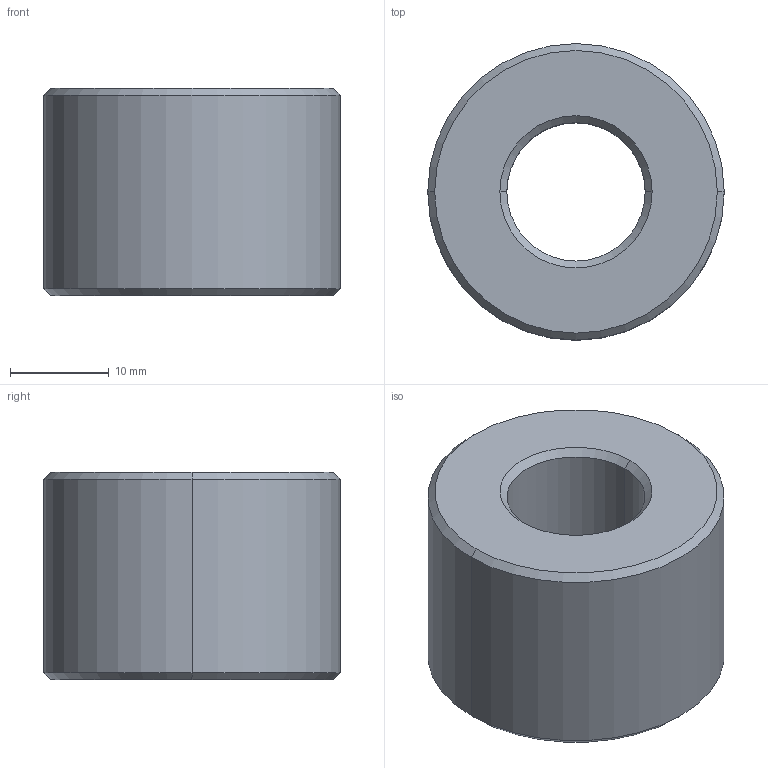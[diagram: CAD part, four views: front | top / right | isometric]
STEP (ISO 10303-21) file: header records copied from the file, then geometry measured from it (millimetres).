
FILE_DESCRIPTION (( 'STEP AP203' ), '1' );
FILE_NAME ('L1339.R14-06.step', '2024-10-24T14:08:46', ( '' ), ( '' ), 'SwSTEP 2.0', 'SolidWorks 2019', '' );
FILE_SCHEMA (( 'CONFIG_CONTROL_DESIGN' ));
Length unit declared in the file: millimetre
Products named in the file (1): L1339.R14-06
Bounding box: 30 x 30 x 21 mm (x, y, z)
Volume: 11543.6 mm3; surface area: 3895.3 mm2
Topology: 1 solids, 1 shells, 14 faces, 28 edges, 16 vertices
Faces by surface type: cone 8, cylinder 4, plane 2
Entity records: 445 total; most frequent: DIRECTION 74, CARTESIAN_POINT 59, ORIENTED_EDGE 56, AXIS2_PLACEMENT_3D 31, EDGE_CURVE 28, EDGE_LOOP 16, CIRCLE 16, VERTEX_POINT 16
